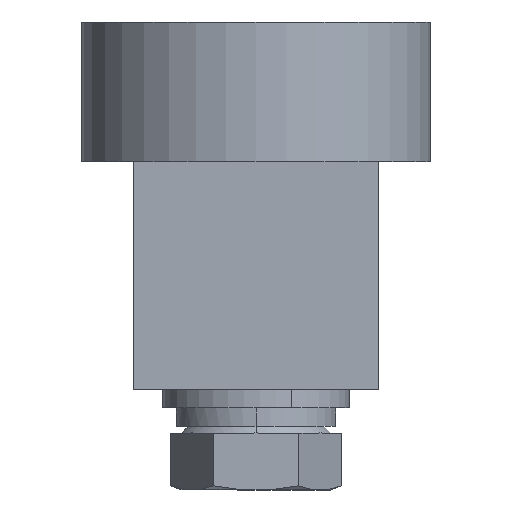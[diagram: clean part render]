
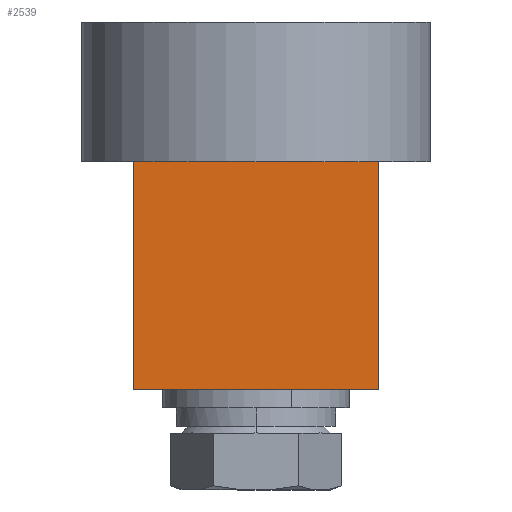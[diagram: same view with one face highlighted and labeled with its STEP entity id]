
A CAD part, left-side view. The second image highlights one B-rep face of the part: STEP entity #2539.
In plain terms, the highlighted planar face has unit normal (-1, 0, 0).
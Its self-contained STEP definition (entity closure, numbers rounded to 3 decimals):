
#476 = AXIS2_PLACEMENT_3D ( 'NONE', #2566, #1647, #1828 ) ;
#491 = VERTEX_POINT ( 'NONE', #9652 ) ;
#544 = EDGE_CURVE ( 'NONE', #491, #885, #11313, .T. ) ;
#885 = VERTEX_POINT ( 'NONE', #1897 ) ;
#1452 = ORIENTED_EDGE ( 'NONE', *, *, #10407, .T. ) ;
#1507 = ORIENTED_EDGE ( 'NONE', *, *, #544, .T. ) ;
#1647 = DIRECTION ( 'NONE',  ( 1., 0., 0. ) ) ;
#1828 = DIRECTION ( 'NONE',  ( 0., 0., -1. ) ) ;
#1897 = CARTESIAN_POINT ( 'NONE',  ( 0., 0., -19.5 ) ) ;
#2248 = CARTESIAN_POINT ( 'NONE',  ( 0., 0., 0. ) ) ;
#2307 = DIRECTION ( 'NONE',  ( 0., 0., 1. ) ) ;
#2434 = LINE ( 'NONE', #8296, #7239 ) ;
#2539 = ADVANCED_FACE ( 'NONE', ( #7293 ), #11055, .F. ) ;
#2565 = ORIENTED_EDGE ( 'NONE', *, *, #10708, .F. ) ;
#2566 = CARTESIAN_POINT ( 'NONE',  ( 0., 21., 0. ) ) ;
#2835 = CARTESIAN_POINT ( 'NONE',  ( 0., 21., -19.5 ) ) ;
#2928 = EDGE_CURVE ( 'NONE', #491, #12037, #2434, .T. ) ;
#3191 = VECTOR ( 'NONE', #2307, 1000. ) ;
#3362 = CARTESIAN_POINT ( 'NONE',  ( 0., 21., 0. ) ) ;
#3951 = DIRECTION ( 'NONE',  ( 0., -1., 0. ) ) ;
#4278 = EDGE_LOOP ( 'NONE', ( #1452, #2565, #9122, #1507 ) ) ;
#4592 = DIRECTION ( 'NONE',  ( 0., -1., 0. ) ) ;
#5052 = VECTOR ( 'NONE', #3951, 1000. ) ;
#7144 = VERTEX_POINT ( 'NONE', #9173 ) ;
#7239 = VECTOR ( 'NONE', #9992, 1000. ) ;
#7293 = FACE_OUTER_BOUND ( 'NONE', #4278, .T. ) ;
#8296 = CARTESIAN_POINT ( 'NONE',  ( 0., 21., 0. ) ) ;
#9122 = ORIENTED_EDGE ( 'NONE', *, *, #2928, .F. ) ;
#9173 = CARTESIAN_POINT ( 'NONE',  ( 0., 0., 0. ) ) ;
#9297 = CARTESIAN_POINT ( 'NONE',  ( 0., 21., 0. ) ) ;
#9652 = CARTESIAN_POINT ( 'NONE',  ( 0., 21., -19.5 ) ) ;
#9931 = VECTOR ( 'NONE', #4592, 1000. ) ;
#9992 = DIRECTION ( 'NONE',  ( 0., 0., 1. ) ) ;
#10407 = EDGE_CURVE ( 'NONE', #885, #7144, #10732, .T. ) ;
#10708 = EDGE_CURVE ( 'NONE', #12037, #7144, #11146, .T. ) ;
#10732 = LINE ( 'NONE', #2248, #3191 ) ;
#11055 = PLANE ( 'NONE',  #476 ) ;
#11146 = LINE ( 'NONE', #9297, #9931 ) ;
#11313 = LINE ( 'NONE', #2835, #5052 ) ;
#12037 = VERTEX_POINT ( 'NONE', #3362 ) ;
